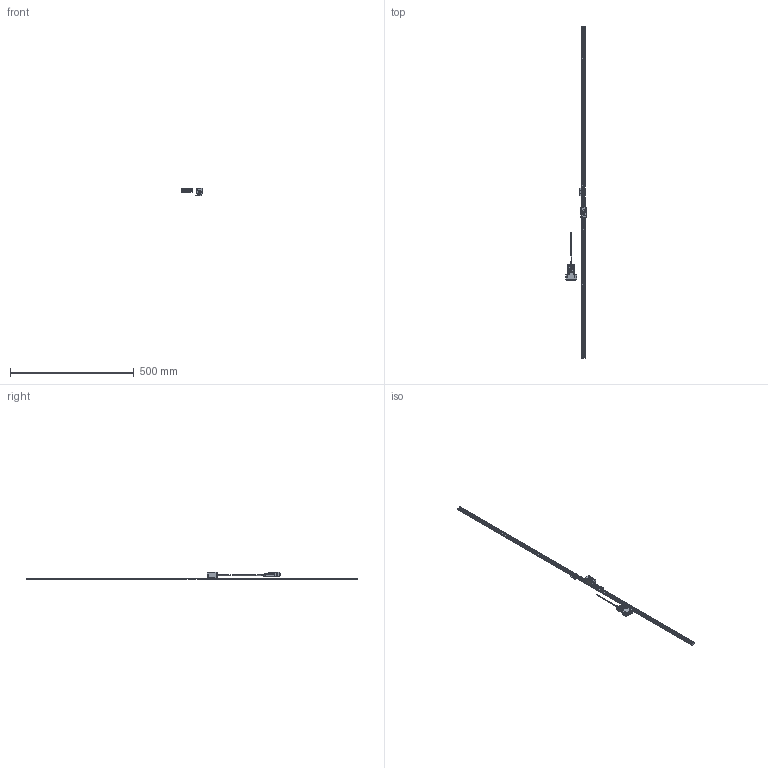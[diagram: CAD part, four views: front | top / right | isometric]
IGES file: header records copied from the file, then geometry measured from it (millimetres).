
Start section: Elysium IGES Interface
Global section: file name: 92HK:\20_商品設計\設計１課\個人\山室\05_作業中雑務\20220810_ST1300 3D HP掲載\ST1300-1300F_G.igs; native system: Creo Elements/Direct Modeling 18.1I  13-Aug-2016; preprocessor: Creo Element/Direct IGES_3D V2.2; author: Unknown; organization: Unknown; date: 20220816.104111; units: millimetre
Bounding box: 83 x 1340 x 30.1 mm (x, y, z)
Volume: 130168.9 mm3; surface area: 79504.8 mm2
Topology: 3 solids, 6 shells, 3542 faces, 9736 edges, 6346 vertices
Faces by surface type: bspline 3542
